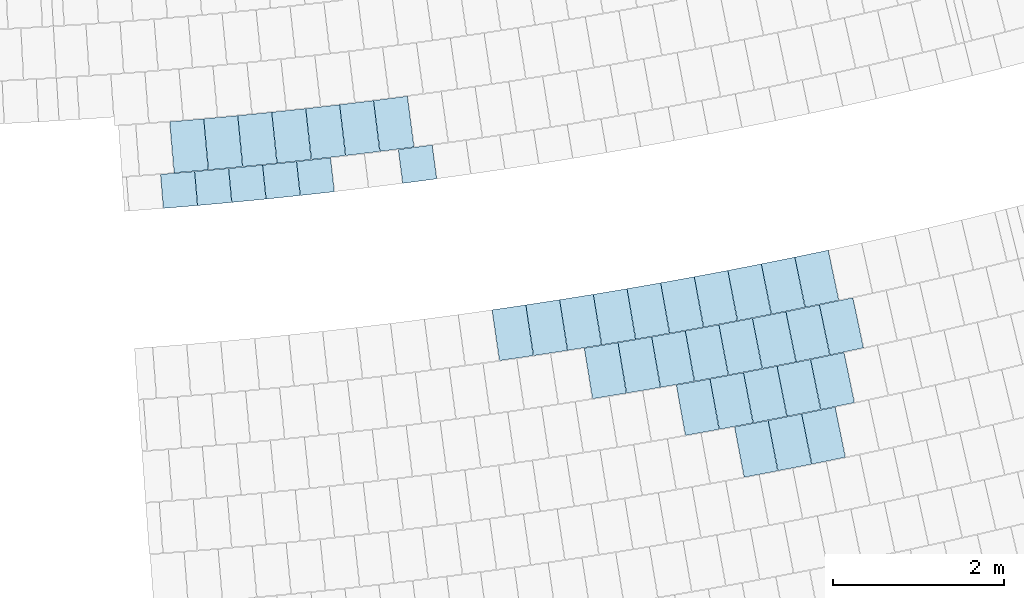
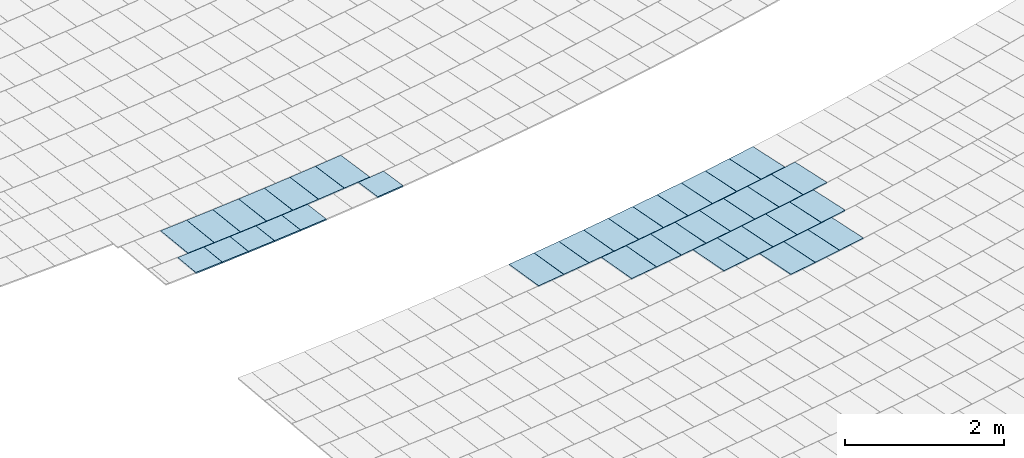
# One storey, part 56 of 438: 39 slabs.
"""IFC2X3 building model written with IfcOpenShell, lengths in millimetres."""

from ifc_helpers import new_model, entity, si_unit, converted_unit, derived_unit, direction, frame, frame_2d, origin, place, context, subcontext, project, spatial, polyline, rectangle, outline, extrude, material, layer, layer_set, layer_usage, type_object, element, save


model = new_model("IFC2X3")

# Units and contexts
model_context = context("Model", 3, precision=0.01, world=origin(), true_north=direction((6.123031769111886e-17, 1.0)))
body_context = subcontext(model_context, "Body", "Model", "MODEL_VIEW")
ifc_project = project(units=[si_unit("LENGTHUNIT", "METRE", prefix="MILLI"), si_unit("AREAUNIT", "SQUARE_METRE"), si_unit("VOLUMEUNIT", "CUBIC_METRE"), converted_unit("PLANEANGLEUNIT", "DEGREE", entity("IfcRatioMeasure", 0.017453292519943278), si_unit("PLANEANGLEUNIT", "RADIAN"), dimensions=[0, 0, 0, 0, 0, 0, 0]), si_unit("MASSUNIT", "GRAM", prefix="KILO"), derived_unit("MASSDENSITYUNIT", [(si_unit("MASSUNIT", "GRAM", prefix="KILO"), 1), (si_unit("LENGTHUNIT", "METRE"), -3)]), derived_unit("MOMENTOFINERTIAUNIT", [(si_unit("LENGTHUNIT", "METRE"), 4)]), si_unit("TIMEUNIT", "SECOND"), si_unit("FREQUENCYUNIT", "HERTZ"), si_unit("THERMODYNAMICTEMPERATUREUNIT", "DEGREE_CELSIUS"), derived_unit("THERMALTRANSMITTANCEUNIT", [(si_unit("MASSUNIT", "GRAM", prefix="KILO"), 1), (si_unit("THERMODYNAMICTEMPERATUREUNIT", "KELVIN"), -1), (si_unit("TIMEUNIT", "SECOND"), -3)]), derived_unit("THERMALCONDUCTANCEUNIT", [(si_unit("MASSUNIT", "GRAM", prefix="KILO"), 1), (si_unit("LENGTHUNIT", "METRE"), 1), (si_unit("THERMODYNAMICTEMPERATUREUNIT", "KELVIN"), -1), (si_unit("TIMEUNIT", "SECOND"), -3)]), derived_unit("VOLUMETRICFLOWRATEUNIT", [(si_unit("LENGTHUNIT", "METRE"), 3), (si_unit("TIMEUNIT", "SECOND"), -1)]), derived_unit("MASSFLOWRATEUNIT", [(si_unit("MASSUNIT", "GRAM", prefix="KILO"), 1), (si_unit("TIMEUNIT", "SECOND"), -1)]), derived_unit("ROTATIONALFREQUENCYUNIT", [(si_unit("TIMEUNIT", "SECOND"), -1)]), si_unit("ELECTRICCURRENTUNIT", "AMPERE"), si_unit("ELECTRICVOLTAGEUNIT", "VOLT"), si_unit("POWERUNIT", "WATT"), converted_unit("FORCEUNIT", "KIP", entity("IfcRatioMeasure", 2.088543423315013e-05), si_unit("FORCEUNIT", "NEWTON"), dimensions=[1, 1, -2, 0, 0, 0, 0]), si_unit("ILLUMINANCEUNIT", "LUX"), si_unit("LUMINOUSFLUXUNIT", "LUMEN"), si_unit("LUMINOUSINTENSITYUNIT", "CANDELA"), derived_unit("USERDEFINED", [(si_unit("MASSUNIT", "GRAM", prefix="KILO"), -1), (si_unit("LENGTHUNIT", "METRE"), -2), (si_unit("TIMEUNIT", "SECOND"), 3), (si_unit("LUMINOUSFLUXUNIT", "LUMEN"), 1)]), derived_unit("USERDEFINED", [(si_unit("MASSUNIT", "GRAM", prefix="KILO"), 1), (si_unit("LENGTHUNIT", "METRE"), 3), (si_unit("TIMEUNIT", "SECOND"), -3), (si_unit("ELECTRICCURRENTUNIT", "AMPERE"), -2)]), derived_unit("USERDEFINED", [(si_unit("LENGTHUNIT", "METRE"), 2), (si_unit("TIMEUNIT", "SECOND"), -2)]), derived_unit("SOUNDPOWERUNIT", [(si_unit("MASSUNIT", "GRAM", prefix="KILO"), 1), (si_unit("LENGTHUNIT", "METRE"), 2), (si_unit("TIMEUNIT", "SECOND"), -3)]), derived_unit("SOUNDPRESSUREUNIT", [(si_unit("MASSUNIT", "GRAM", prefix="KILO"), 1), (si_unit("LENGTHUNIT", "METRE"), -1), (si_unit("TIMEUNIT", "SECOND"), -2)]), derived_unit("LINEARVELOCITYUNIT", [(si_unit("LENGTHUNIT", "METRE"), 1), (si_unit("TIMEUNIT", "SECOND"), -1)]), si_unit("PRESSUREUNIT", "PASCAL"), derived_unit("USERDEFINED", [(si_unit("LENGTHUNIT", "METRE"), -2), (si_unit("MASSUNIT", "GRAM", prefix="KILO"), 1), (si_unit("TIMEUNIT", "SECOND"), -2)]), derived_unit("LINEARFORCEUNIT", [(si_unit("MASSUNIT", "GRAM", prefix="KILO"), 1), (si_unit("LENGTHUNIT", "METRE"), 1), (si_unit("TIMEUNIT", "SECOND"), -2), (si_unit("LENGTHUNIT", "METRE"), -1)]), derived_unit("PLANARFORCEUNIT", [(si_unit("MASSUNIT", "GRAM", prefix="KILO"), 1), (si_unit("LENGTHUNIT", "METRE"), 1), (si_unit("TIMEUNIT", "SECOND"), -2), (si_unit("LENGTHUNIT", "METRE"), -2)]), derived_unit("SPECIFICHEATCAPACITYUNIT", [(si_unit("LENGTHUNIT", "METRE"), 2), (si_unit("TIMEUNIT", "SECOND"), -2), (si_unit("THERMODYNAMICTEMPERATUREUNIT", "KELVIN"), -1)]), derived_unit("VAPORPERMEABILITYUNIT", [(si_unit("TIMEUNIT", "SECOND"), 1), (si_unit("LENGTHUNIT", "METRE"), -1)]), derived_unit("DYNAMICVISCOSITYUNIT", [(si_unit("MASSUNIT", "GRAM", prefix="KILO"), 1), (si_unit("LENGTHUNIT", "METRE"), -1), (si_unit("TIMEUNIT", "SECOND"), -1)]), derived_unit("THERMALEXPANSIONCOEFFICIENTUNIT", [(si_unit("THERMODYNAMICTEMPERATUREUNIT", "KELVIN"), -1)])], contexts=[model_context])

# Site, building, storey
site_placement = place(None, frame((0.0, 0.0, 0.0), z_axis=(0.0, 0.0, 1.0), x_axis=(0.8191520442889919, 0.5735764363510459, 0.0)))
site = spatial("IfcSite", under=ifc_project, at=site_placement, Name="Default", CompositionType="ELEMENT")
building_placement = place(site_placement, origin())
building = spatial("IfcBuilding", under=site, at=building_placement, CompositionType="ELEMENT")
storey_placement = place(building_placement, origin())
storey = spatial("IfcBuildingStorey", under=building, at=storey_placement, Name="PLAN", CompositionType="ELEMENT", Elevation=0.0)

# Slabs
ifc_material = material(Name="Paint-01")
ifc_layer = layer(ifc_material, 20.00000000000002)
ifc_layer_set = layer_set([ifc_layer], Name="Floor:Slab-179:1000")
ifc_layer_usage = layer_usage(ifc_layer_set, "AXIS3", "POSITIVE", 0.0)
slab_type = type_object("IfcSlabType", Name="Floor:Slab-179:1000", PredefinedType="FLOOR", material=ifc_layer_set)
slab_1_placement = place(storey_placement, origin())
element("IfcSlab", 1, at=slab_1_placement, inside=storey, type_object=slab_type, material=ifc_layer_usage, Name="Floor:Slab-179:1000", ObjectType="Floor:Slab-179:1000", PredefinedType="FLOOR", context=body_context, shape_type="SweptSolid", body=[
    extrude(outline(polyline([(-300.0000010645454, -200.00000294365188), (299.9999989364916, -200.00000294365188), (300.00000106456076, 200.00000294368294), (-299.9999989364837, 200.00000294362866), (-300.0000010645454, -200.00000294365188)])), frame((-66964.62865862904, -121936.65293283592, 20.0), z_axis=(0.0, 0.0, -1.0), x_axis=(-0.4425299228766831, -0.8967537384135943, 0.0)), (0.0, 0.0, 1.0), 20.000000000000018),
])
slab_2_placement = place(storey_placement, origin())
element("IfcSlab", 2, at=slab_2_placement, inside=storey, type_object=slab_type, material=ifc_layer_usage, Name="Floor:Slab-179:1000", ObjectType="Floor:Slab-179:1000", PredefinedType="FLOOR", context=body_context, shape_type="SweptSolid", body=[
    extrude(outline(polyline([(-299.99999893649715, -200.00000294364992), (300.0000010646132, -200.00000294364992), (299.9999989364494, 200.0000029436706), (-300.00000106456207, 200.00000294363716), (-299.99999893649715, -200.00000294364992)])), frame((-65033.14153726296, -124832.08716790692, 20.0), z_axis=(0.0, 0.0, -1.0), x_axis=(-0.39843642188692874, -0.9171959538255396, 0.0)), (0.0, 0.0, 1.0), 20.00000000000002),
])
slab_3_placement = place(storey_placement, origin())
element("IfcSlab", 3, at=slab_3_placement, inside=storey, type_object=slab_type, material=ifc_layer_usage, Name="Floor:Slab-179:1000", ObjectType="Floor:Slab-179:1000", PredefinedType="FLOOR", context=body_context, shape_type="SweptSolid", body=[
    extrude(outline(polyline([(-299.99999893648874, -200.00000294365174), (300.00000106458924, -200.00000294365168), (299.99999893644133, 200.00000294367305), (-300.000001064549, 200.0000029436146), (-299.99999893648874, -200.00000294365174)])), frame((-65768.36585494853, -124507.02037914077, 20.0), z_axis=(0.0, 0.0, -1.0), x_axis=(-0.4102910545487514, -0.9119546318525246, 0.0)), (0.0, 0.0, 1.0), 20.00000000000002),
])
slab_4_placement = place(storey_placement, origin())
element("IfcSlab", 4, at=slab_4_placement, inside=storey, type_object=slab_type, material=ifc_layer_usage, Name="Floor:Slab-179:1000", ObjectType="Floor:Slab-179:1000", PredefinedType="FLOOR", context=body_context, shape_type="SweptSolid", body=[
    extrude(outline(polyline([(-299.99999893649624, -200.0000029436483), (300.0000010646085, -200.0000029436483), (299.99999893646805, 200.0000029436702), (-300.0000010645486, 200.00000294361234), (-299.99999893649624, -200.0000029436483)])), frame((-65401.28037593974, -124670.74499894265, 20.0), z_axis=(0.0, 0.0, -1.0), x_axis=(-0.40437223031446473, -0.9145944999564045, 0.0)), (0.0, 0.0, 1.0), 20.00000000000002),
])
slab_5_placement = place(storey_placement, origin())
element("IfcSlab", 5, at=slab_5_placement, inside=storey, type_object=slab_type, material=ifc_layer_usage, Name="Floor:Slab-179:1000", ObjectType="Floor:Slab-179:1000", PredefinedType="FLOOR", context=body_context, shape_type="SweptSolid", body=[
    extrude(outline(polyline([(-299.99999893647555, -200.0000029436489), (300.000001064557, -200.00000294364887), (299.9999989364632, 200.00000294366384), (-300.0000010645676, 200.00000294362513), (-299.99999893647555, -200.0000029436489)])), frame((-65316.92627659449, -124046.27160802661, 20.0), z_axis=(0.0, 0.0, -1.0), x_axis=(-0.4069821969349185, -0.9134360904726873, 0.0)), (0.0, 0.0, 1.0), 20.00000000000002),
])
slab_6_placement = place(storey_placement, origin())
element("IfcSlab", 6, at=slab_6_placement, inside=storey, type_object=slab_type, material=ifc_layer_usage, Name="Floor:Slab-179:1000", ObjectType="Floor:Slab-179:1000", PredefinedType="FLOOR", context=body_context, shape_type="SweptSolid", body=[
    extrude(outline(polyline([(-299.9999989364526, -200.00000294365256), (300.0000010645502, -200.0000029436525), (299.99999893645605, 200.00000294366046), (-300.0000010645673, 200.0000029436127), (-299.9999989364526, -200.00000294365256)])), frame((-64580.472515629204, -124368.63893316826, 20.0), z_axis=(0.0, 0.0, -1.0), x_axis=(-0.39499076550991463, -0.9186850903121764, 0.0)), (0.0, 0.0, 1.0), 20.00000000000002),
])
slab_7_placement = place(storey_placement, origin())
element("IfcSlab", 7, at=slab_7_placement, inside=storey, type_object=slab_type, material=ifc_layer_usage, Name="Floor:Slab-179:1000", ObjectType="Floor:Slab-179:1000", PredefinedType="FLOOR", context=body_context, shape_type="SweptSolid", body=[
    extrude(outline(polyline([(-299.9999989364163, -200.0000029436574), (300.00000106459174, -200.00000294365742), (299.9999989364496, 200.00000294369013), (-300.00000106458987, 200.0000029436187), (-299.9999989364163, -200.0000029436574)])), frame((-64949.226872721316, -124208.66030008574, 20.0), z_axis=(0.0, 0.0, -1.0), x_axis=(-0.4009950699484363, -0.9160802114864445, 0.0)), (0.0, 0.0, 1.0), 20.000000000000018),
])
slab_8_placement = place(storey_placement, origin())
element("IfcSlab", 8, at=slab_8_placement, inside=storey, type_object=slab_type, material=ifc_layer_usage, Name="Floor:Slab-179:1000", ObjectType="Floor:Slab-179:1000", PredefinedType="FLOOR", context=body_context, shape_type="SweptSolid", body=[
    extrude(outline(polyline([(-299.99999893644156, -200.00000294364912), (300.00000106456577, -200.00000294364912), (299.9999989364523, 200.0000029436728), (-300.0000010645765, 200.00000294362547), (-299.99999893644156, -200.00000294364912)])), frame((-65683.55497608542, -123881.47981324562, 20.0), z_axis=(0.0, 0.0, -1.0), x_axis=(-0.41295188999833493, -0.9107528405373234, 0.0)), (0.0, 0.0, 1.0), 20.000000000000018),
])
slab_9_placement = place(storey_placement, origin())
element("IfcSlab", 9, at=slab_9_placement, inside=storey, type_object=slab_type, material=ifc_layer_usage, Name="Floor:Slab-179:1000", ObjectType="Floor:Slab-179:1000", PredefinedType="FLOOR", context=body_context, shape_type="SweptSolid", body=[
    extrude(outline(polyline([(-299.9999989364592, -200.00000294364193), (300.0000010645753, -200.00000294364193), (299.9999989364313, 200.0000029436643), (-300.0000010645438, 200.0000029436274), (-299.9999989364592, -200.00000294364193)])), frame((-66049.09726589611, -123714.29197494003, 20.0), z_axis=(0.0, 0.0, -1.0), x_axis=(-0.41890389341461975, -0.9080305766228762, 0.0)), (0.0, 0.0, 1.0), 20.000000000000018),
])
slab_10_placement = place(storey_placement, origin())
element("IfcSlab", 10, at=slab_10_placement, inside=storey, type_object=slab_type, material=ifc_layer_usage, Name="Floor:Slab-179:1000", ObjectType="Floor:Slab-179:1000", PredefinedType="FLOOR", context=body_context, shape_type="SweptSolid", body=[
    extrude(outline(polyline([(-299.99999893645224, -200.0000029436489), (300.0000010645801, -200.00000294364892), (299.9999989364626, 200.0000029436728), (-300.0000010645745, 200.0000029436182), (-299.99999893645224, -200.0000029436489)])), frame((-64496.81120243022, -123745.80328261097, 20.0), z_axis=(0.0, 0.0, -1.0), x_axis=(-0.39754475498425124, -0.9175827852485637, 0.0)), (0.0, 0.0, 1.0), 20.00000000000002),
])
slab_11_placement = place(storey_placement, origin())
element("IfcSlab", 11, at=slab_11_placement, inside=storey, type_object=slab_type, material=ifc_layer_usage, Name="Floor:Slab-179:1000", ObjectType="Floor:Slab-179:1000", PredefinedType="FLOOR", context=body_context, shape_type="SweptSolid", body=[
    extrude(outline(polyline([(-299.9999989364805, -200.00000294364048), (300.00000106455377, -200.0000029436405), (299.99999893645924, 200.00000294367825), (-300.0000010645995, 200.00000294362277), (-299.9999989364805, -200.00000294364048)])), frame((-64865.13179837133, -123584.7796025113, 20.0), z_axis=(0.0, 0.0, -1.0), x_axis=(-0.40360166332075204, -0.9149348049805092, 0.0)), (0.0, 0.0, 1.0), 20.00000000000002),
])
slab_12_placement = place(storey_placement, origin())
element("IfcSlab", 12, at=slab_12_placement, inside=storey, type_object=slab_type, material=ifc_layer_usage, Name="Floor:Slab-179:1000", ObjectType="Floor:Slab-179:1000", PredefinedType="FLOOR", context=body_context, shape_type="SweptSolid", body=[
    extrude(outline(polyline([(-299.99999893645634, -200.0000029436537), (300.0000010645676, -200.00000294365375), (299.9999989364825, 200.00000294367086), (-300.00000106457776, 200.00000294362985), (-299.99999893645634, -200.0000029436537)])), frame((-64127.43422209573, -123904.38869602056, 20.0), z_axis=(0.0, 0.0, -1.0), x_axis=(-0.39147047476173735, -0.9201906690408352, 0.0)), (0.0, 0.0, 1.0), 20.00000000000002),
])
slab_13_placement = place(storey_placement, origin())
element("IfcSlab", 13, at=slab_13_placement, inside=storey, type_object=slab_type, material=ifc_layer_usage, Name="Floor:Slab-179:1000", ObjectType="Floor:Slab-179:1000", PredefinedType="FLOOR", context=body_context, shape_type="SweptSolid", body=[
    extrude(outline(polyline([(-299.9999989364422, -200.000002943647), (300.0000010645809, -200.00000294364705), (299.9999989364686, 200.00000294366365), (-300.0000010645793, 200.0000029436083), (-299.9999989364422, -200.000002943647)])), frame((-65232.37991506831, -123421.32469212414, 20.0), z_axis=(0.0, 0.0, -1.0), x_axis=(-0.4096409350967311, -0.912246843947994, 0.0)), (0.0, 0.0, 1.0), 20.00000000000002),
])
slab_14_placement = place(storey_placement, origin())
element("IfcSlab", 14, at=slab_14_placement, inside=storey, type_object=slab_type, material=ifc_layer_usage, Name="Floor:Slab-179:1000", ObjectType="Floor:Slab-179:1000", PredefinedType="FLOOR", context=body_context, shape_type="SweptSolid", body=[
    extrude(outline(polyline([(-299.9999989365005, -200.0000029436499), (300.0000010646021, -200.00000294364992), (299.99999893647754, 200.00000294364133), (-300.00000106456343, 200.00000294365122), (-299.9999989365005, -200.0000029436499)])), frame((-65598.539504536, -123255.44569409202, 20.0), z_axis=(0.0, 0.0, -1.0), x_axis=(-0.4156623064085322, -0.9095190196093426, 0.0)), (0.0, 0.0, 1.0), 20.000000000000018),
])
slab_15_placement = place(storey_placement, origin())
element("IfcSlab", 15, at=slab_15_placement, inside=storey, type_object=slab_type, material=ifc_layer_usage, Name="Floor:Slab-179:1000", ObjectType="Floor:Slab-179:1000", PredefinedType="FLOOR", context=body_context, shape_type="SweptSolid", body=[
    extrude(outline(polyline([(-299.9999989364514, -200.00000294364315), (300.00000106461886, -200.00000294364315), (299.9999989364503, 200.00000294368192), (-300.00000106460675, 200.00000294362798), (-299.9999989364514, -200.00000294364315)])), frame((-65963.5945663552, -123087.14985698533, 20.0), z_axis=(0.0, 0.0, -1.0), x_axis=(-0.421665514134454, -0.9067514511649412, 0.0)), (0.0, 0.0, 1.0), 20.00000000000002),
])
slab_16_placement = place(storey_placement, origin())
element("IfcSlab", 16, at=slab_16_placement, inside=storey, type_object=slab_type, material=ifc_layer_usage, Name="Floor:Slab-179:1000", ObjectType="Floor:Slab-179:1000", PredefinedType="FLOOR", context=body_context, shape_type="SweptSolid", body=[
    extrude(outline(polyline([(-299.99999893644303, -200.0000029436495), (300.0000010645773, -200.00000294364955), (299.99999893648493, 200.00000294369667), (-300.00000106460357, 200.0000029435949), (-299.99999893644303, -200.0000029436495)])), frame((-66690.32734739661, -122743.33718756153, 20.0), z_axis=(0.0, 0.0, -1.0), x_axis=(-0.4336163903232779, -0.901097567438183, 0.0)), (0.0, 0.0, 1.0), 20.00000000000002),
])
slab_17_placement = place(storey_placement, origin())
element("IfcSlab", 17, at=slab_17_placement, inside=storey, type_object=slab_type, material=ifc_layer_usage, Name="Floor:Slab-179:1000", ObjectType="Floor:Slab-179:1000", PredefinedType="FLOOR", context=body_context, shape_type="SweptSolid", body=[
    extrude(outline(polyline([(-299.9999989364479, -200.0000029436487), (300.000001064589, -200.00000294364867), (299.99999893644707, 200.0000029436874), (-300.00000106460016, 200.00000294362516), (-299.9999989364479, -200.0000029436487)])), frame((-66327.5291483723, -122916.44453498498, 20.0), z_axis=(0.0, 0.0, -1.0), x_axis=(-0.4276502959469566, -0.9039442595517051, 0.0)), (0.0, 0.0, 1.0), 20.00000000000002),
])
slab_18_placement = place(storey_placement, origin())
element("IfcSlab", 18, at=slab_18_placement, inside=storey, type_object=slab_type, material=ifc_layer_usage, Name="Floor:Slab-179:1000", ObjectType="Floor:Slab-179:1000", PredefinedType="FLOOR", context=body_context, shape_type="SweptSolid", body=[
    extrude(outline(polyline([(-299.9999989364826, -200.00000294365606), (300.0000010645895, -200.00000294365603), (299.9999989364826, 200.00000294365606), (-300.000001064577, 200.00000294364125), (-299.9999989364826, -200.00000294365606)])), frame((-64044.02537343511, -123282.14910865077, 20.0), z_axis=(0.0, 0.0, -1.0), x_axis=(-0.39401894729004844, -0.9191023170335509, 0.0)), (0.0, 0.0, 1.0), 20.00000000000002),
])
slab_19_placement = place(storey_placement, origin())
element("IfcSlab", 19, at=slab_19_placement, inside=storey, type_object=slab_type, material=ifc_layer_usage, Name="Floor:Slab-179:1000", ObjectType="Floor:Slab-179:1000", PredefinedType="FLOOR", context=body_context, shape_type="SweptSolid", body=[
    extrude(outline(polyline([(-299.99999893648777, -200.00000294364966), (300.00000106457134, -200.00000294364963), (299.9999989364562, 200.00000294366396), (-300.0000010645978, 200.00000294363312), (-299.99999893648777, -200.00000294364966)])), frame((-65147.63403498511, -122795.8904603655, 20.0), z_axis=(0.0, 0.0, -1.0), x_axis=(-0.4123497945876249, -0.9110256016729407, 0.0)), (0.0, 0.0, 1.0), 20.00000000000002),
])
slab_20_placement = place(storey_placement, origin())
element("IfcSlab", 20, at=slab_20_placement, inside=storey, type_object=slab_type, material=ifc_layer_usage, Name="Floor:Slab-179:1000", ObjectType="Floor:Slab-179:1000", PredefinedType="FLOOR", context=body_context, shape_type="SweptSolid", body=[
    extrude(outline(polyline([(-299.99999893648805, -200.00000294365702), (300.00000106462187, -200.000002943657), (299.99999893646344, 200.00000294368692), (-300.00000106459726, 200.00000294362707), (-299.99999893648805, -200.00000294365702)])), frame((-64780.84950718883, -122960.43183408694, 20.0), z_axis=(0.0, 0.0, -1.0), x_axis=(-0.4062575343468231, -0.913758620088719, 0.0)), (0.0, 0.0, 1.0), 20.00000000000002),
])
slab_21_placement = place(storey_placement, origin())
element("IfcSlab", 21, at=slab_21_placement, inside=storey, type_object=slab_type, material=ifc_layer_usage, Name="Floor:Slab-179:1000", ObjectType="Floor:Slab-179:1000", PredefinedType="FLOOR", context=body_context, shape_type="SweptSolid", body=[
    extrude(outline(polyline([(-299.9999989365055, -200.00000294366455), (300.0000010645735, -200.00000294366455), (299.999998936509, 200.00000294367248), (-300.00000106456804, 200.0000029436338), (-299.9999989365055, -200.00000294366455)])), frame((-64412.97448610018, -123122.52045909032, 20.0), z_axis=(0.0, 0.0, -1.0), x_axis=(-0.4001471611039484, -0.9164508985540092, 0.0)), (0.0, 0.0, 1.0), 20.00000000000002),
])
slab_22_placement = place(storey_placement, origin())
element("IfcSlab", 22, at=slab_22_placement, inside=storey, type_object=slab_type, material=ifc_layer_usage, Name="Floor:Slab-179:1000", ObjectType="Floor:Slab-179:1000", PredefinedType="FLOOR", context=body_context, shape_type="SweptSolid", body=[
    extrude(outline(polyline([(-299.9999989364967, -200.0000029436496), (300.00000106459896, -200.0000029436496), (299.9999989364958, 200.00000294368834), (-300.000001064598, 200.00000294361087), (-299.9999989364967, -200.0000029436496)])), frame((-65877.86624765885, -122459.47892012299, 20.0), z_axis=(0.0, 0.0, -1.0), x_axis=(-0.42447889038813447, -0.9054378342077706, 0.0)), (0.0, 0.0, 1.0), 20.00000000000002),
])
slab_23_placement = place(storey_placement, origin())
element("IfcSlab", 23, at=slab_23_placement, inside=storey, type_object=slab_type, material=ifc_layer_usage, Name="Floor:Slab-179:1000", ObjectType="Floor:Slab-179:1000", PredefinedType="FLOOR", context=body_context, shape_type="SweptSolid", body=[
    extrude(outline(polyline([(-299.99999893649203, -200.00000294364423), (300.0000010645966, -200.00000294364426), (299.99999893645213, 200.00000294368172), (-300.00000106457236, 200.00000294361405), (-299.99999893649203, -200.00000294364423)])), frame((-65513.31171639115, -122628.90367400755, 20.0), z_axis=(0.0, 0.0, -1.0), x_axis=(-0.41842367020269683, -0.9082519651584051, 0.0)), (0.0, 0.0, 1.0), 20.00000000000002),
])
slab_24_placement = place(storey_placement, origin())
element("IfcSlab", 24, at=slab_24_placement, inside=storey, type_object=slab_type, material=ifc_layer_usage, Name="Floor:Slab-179:1000", ObjectType="Floor:Slab-179:1000", PredefinedType="FLOOR", context=body_context, shape_type="SweptSolid", body=[
    extrude(outline(polyline([(-299.9999989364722, -200.00000294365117), (300.0000010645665, -200.00000294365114), (299.99999893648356, 200.00000294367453), (-300.0000010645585, 200.00000294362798), (-299.9999989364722, -200.00000294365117)])), frame((-66603.54089588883, -122113.34583336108, 20.0), z_axis=(0.0, 0.0, -1.0), x_axis=(-0.4365322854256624, -0.8996885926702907, 0.0)), (0.0, 0.0, 1.0), 20.000000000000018),
])
slab_25_placement = place(storey_placement, origin())
element("IfcSlab", 25, at=slab_25_placement, inside=storey, type_object=slab_type, material=ifc_layer_usage, Name="Floor:Slab-179:1000", ObjectType="Floor:Slab-179:1000", PredefinedType="FLOOR", context=body_context, shape_type="SweptSolid", body=[
    extrude(outline(polyline([(-299.99999893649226, -200.00000294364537), (300.0000010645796, -200.0000029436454), (299.99999893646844, 200.00000294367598), (-300.00000106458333, 200.00000294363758), (-299.99999893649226, -200.00000294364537)])), frame((-66241.28137511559, -122287.62375251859, 20.0), z_axis=(0.0, 0.0, -1.0), x_axis=(-0.43051518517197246, -0.9025833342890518, 0.0)), (0.0, 0.0, 1.0), 20.00000000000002),
])
slab_26_placement = place(storey_placement, origin())
element("IfcSlab", 26, at=slab_26_placement, inside=storey, type_object=slab_type, material=ifc_layer_usage, Name="Floor:Slab-179:1000", ObjectType="Floor:Slab-179:1000", PredefinedType="FLOOR", context=body_context, shape_type="SweptSolid", body=[
    extrude(outline(polyline([(-300.00000106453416, -200.000002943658), (299.99999893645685, -200.00000294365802), (300.0000010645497, 200.00000294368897), (-299.99999893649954, 200.0000029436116), (-300.00000106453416, -200.000002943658)])), frame((-67324.52856422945, -121757.55292880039, 20.0), z_axis=(0.0, 0.0, -1.0), x_axis=(-0.4485078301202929, -0.8937789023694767, 0.0)), (0.0, 0.0, 1.0), 20.00000000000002),
])
slab_27_placement = place(storey_placement, origin())
element("IfcSlab", 27, at=slab_27_placement, inside=storey, type_object=slab_type, material=ifc_layer_usage, Name="Floor:Slab-179:1000", ObjectType="Floor:Slab-179:1000", PredefinedType="FLOOR", context=body_context, shape_type="SweptSolid", body=[
    extrude(outline(polyline([(-300.0, -200.00000294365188), (299.99999762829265, -200.00000294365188), (300.0, 200.00000294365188), (-299.99999762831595, 200.00000294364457), (-300.0, -200.00000294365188)])), frame((-67061.70254878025, -118953.50101418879, 520.0), z_axis=(0.0, 0.0, -1.0), x_axis=(-0.4643095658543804, -0.8856729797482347, 0.0)), (0.0, 0.0, 1.0), 20.000000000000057),
])
slab_28_placement = place(storey_placement, origin())
element("IfcSlab", 28, at=slab_28_placement, inside=storey, type_object=slab_type, material=ifc_layer_usage, Name="Floor:Slab-179:1000", ObjectType="Floor:Slab-179:1000", PredefinedType="FLOOR", context=body_context, shape_type="SweptSolid", body=[
    extrude(outline(polyline([(-300.0, -200.00000294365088), (299.99999762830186, -200.00000294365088), (300.0, 200.00000294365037), (-299.9999976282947, 200.00000294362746), (-300.0, -200.00000294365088)])), frame((-67417.17079100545, -118765.56369588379, 520.0), z_axis=(0.0, 0.0, -1.0), x_axis=(-0.47048196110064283, -0.8824096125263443, 0.0)), (0.0, 0.0, 1.0), 20.000000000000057),
])
slab_29_placement = place(storey_placement, origin())
element("IfcSlab", 29, at=slab_29_placement, inside=storey, type_object=slab_type, material=ifc_layer_usage, Name="Floor:Slab-179:1000", ObjectType="Floor:Slab-179:1000", PredefinedType="FLOOR", context=body_context, shape_type="SweptSolid", body=[
    extrude(outline(polyline([(-300.0, -200.00000294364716), (299.99999762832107, -200.0000029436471), (300.0, 200.00000294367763), (-299.9999976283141, 200.00000294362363), (-300.0, -200.00000294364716)])), frame((-67771.3182026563, -118575.14910173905, 520.0), z_axis=(0.0, 0.0, -1.0), x_axis=(-0.47663142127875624, -0.8791032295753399, 0.0)), (0.0, 0.0, 1.0), 19.99999999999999),
])
slab_30_placement = place(storey_placement, origin())
element("IfcSlab", 30, at=slab_30_placement, inside=storey, type_object=slab_type, material=ifc_layer_usage, Name="Floor:Slab-179:1000", ObjectType="Floor:Slab-179:1000", PredefinedType="FLOOR", context=body_context, shape_type="SweptSolid", body=[
    extrude(outline(polyline([(-300.0, -200.00000294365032), (299.9999976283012, -200.00000294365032), (300.0, 200.0000029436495), (-299.9999976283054, 200.00000294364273), (-300.0, -200.00000294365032)])), frame((-68124.12751974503, -118382.2665140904, 520.0), z_axis=(0.0, 0.0, -1.0), x_axis=(-0.48275764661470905, -0.8757539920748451, 0.0)), (0.0, 0.0, 1.0), 20.000000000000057),
])
slab_31_placement = place(storey_placement, origin())
element("IfcSlab", 31, at=slab_31_placement, inside=storey, type_object=slab_type, material=ifc_layer_usage, Name="Floor:Slab-179:1000", ObjectType="Floor:Slab-179:1000", PredefinedType="FLOOR", context=body_context, shape_type="SweptSolid", body=[
    extrude(outline(polyline([(-300.0, -200.00000294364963), (299.99999762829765, -200.0000029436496), (300.0, 200.00000294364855), (-299.99999762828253, 200.00000294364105), (-300.0, -200.00000294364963)])), frame((-68825.66314126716, -117989.13508871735, 520.0), z_axis=(0.0, 0.0, -1.0), x_axis=(-0.4949391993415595, -0.8689276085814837, 0.0)), (0.0, 0.0, 1.0), 20.000000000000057),
])
slab_32_placement = place(storey_placement, origin())
element("IfcSlab", 32, at=slab_32_placement, inside=storey, type_object=slab_type, material=ifc_layer_usage, Name="Floor:Slab-179:1000", ObjectType="Floor:Slab-179:1000", PredefinedType="FLOOR", context=body_context, shape_type="SweptSolid", body=[
    extrude(rectangle(XDim=599.9996019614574, YDim=399.9997422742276, at=frame_2d((-3.154809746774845e-12, 1.1823431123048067e-11), x_axis=(1.0, 0.0))), frame((-69174.17177550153, -117789.27647824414, 520.0), z_axis=(0.0, 0.0, -1.0), x_axis=(-0.4999999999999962, -0.8660254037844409, 0.0)), (0.0, 0.0, 1.0), 19.99999999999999),
])
slab_33_placement = place(storey_placement, origin())
element("IfcSlab", 33, at=slab_33_placement, inside=storey, type_object=slab_type, material=ifc_layer_usage, Name="Floor:Slab-179:1000", ObjectType="Floor:Slab-179:1000", PredefinedType="FLOOR", context=body_context, shape_type="SweptSolid", body=[
    extrude(outline(polyline([(-300.0, -200.0000029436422), (299.9999976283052, -200.00000294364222), (300.0, 200.00000294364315), (-299.9999976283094, 200.00000294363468), (-300.0, -200.0000029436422)])), frame((-68475.58154351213, -118186.92533558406, 520.0), z_axis=(0.0, 0.0, -1.0), x_axis=(-0.4888603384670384, -0.8723620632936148, 0.0)), (0.0, 0.0, 1.0), 19.99999999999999),
])
slab_34_placement = place(storey_placement, origin())
element("IfcSlab", 34, at=slab_34_placement, inside=storey, type_object=slab_type, material=ifc_layer_usage, Name="Floor:Slab-179:1000", ObjectType="Floor:Slab-179:1000", PredefinedType="FLOOR", context=body_context, shape_type="SweptSolid", body=[
    extrude(outline(polyline([(-200.0, -200.00000294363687), (199.99999762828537, -200.00000294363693), (200.0, 200.00000294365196), (-199.99999762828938, 200.0000029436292), (-200.0, -200.00000294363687)])), frame((-67105.10863841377, -119500.48208082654, 520.0), z_axis=(0.0, 0.0, -1.0), x_axis=(-0.46102063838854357, -0.887389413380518, 0.0)), (0.0, 0.0, 1.0), 19.999999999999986),
])
slab_35_placement = place(storey_placement, origin())
element("IfcSlab", 35, at=slab_35_placement, inside=storey, type_object=slab_type, material=ifc_layer_usage, Name="Floor:Slab-179:1000", ObjectType="Floor:Slab-179:1000", PredefinedType="FLOOR", context=body_context, shape_type="SweptSolid", body=[
    extrude(outline(polyline([(-200.0, -200.00000294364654), (199.9999976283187, -200.00000294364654), (200.0, 200.0000029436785), (-199.99999762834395, 200.00000294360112), (-200.0, -200.00000294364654)])), frame((-68519.42234483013, -118740.7123828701, 520.0), z_axis=(0.0, 0.0, -1.0), x_axis=(-0.4853654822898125, -0.8743113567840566, 0.0)), (0.0, 0.0, 1.0), 20.000000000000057),
])
slab_36_placement = place(storey_placement, origin())
element("IfcSlab", 36, at=slab_36_placement, inside=storey, type_object=slab_type, material=ifc_layer_usage, Name="Floor:Slab-179:1000", ObjectType="Floor:Slab-179:1000", PredefinedType="FLOOR", context=body_context, shape_type="SweptSolid", body=[
    extrude(outline(polyline([(-200.0, -200.00000294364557), (199.99999762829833, -200.00000294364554), (200.0, 200.0000029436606), (-199.9999976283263, 200.00000294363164), (-200.0, -200.00000294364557)])), frame((-69218.57064241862, -118346.24345894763, 520.0), z_axis=(0.0, 0.0, -1.0), x_axis=(-0.49740005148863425, -0.8675212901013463, 0.0)), (0.0, 0.0, 1.0), 20.000000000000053),
])
slab_37_placement = place(storey_placement, origin())
element("IfcSlab", 37, at=slab_37_placement, inside=storey, type_object=slab_type, material=ifc_layer_usage, Name="Floor:Slab-179:1000", ObjectType="Floor:Slab-179:1000", PredefinedType="FLOOR", context=body_context, shape_type="SweptSolid", body=[
    extrude(outline(polyline([(-200.0, -200.0000029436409), (199.99999762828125, -200.0000029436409), (200.0, 200.0000029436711), (-199.99999762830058, 200.0000029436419), (-200.0, -200.0000029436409)])), frame((-68869.67784595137, -118544.68553522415, 520.0), z_axis=(0.0, 0.0, -1.0), x_axis=(-0.4913944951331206, -0.870937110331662, 0.0)), (0.0, 0.0, 1.0), 20.000000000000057),
])
slab_38_placement = place(storey_placement, origin())
element("IfcSlab", 38, at=slab_38_placement, inside=storey, type_object=slab_type, material=ifc_layer_usage, Name="Floor:Slab-179:1000", ObjectType="Floor:Slab-179:1000", PredefinedType="FLOOR", context=body_context, shape_type="SweptSolid", body=[
    extrude(outline(polyline([(-200.0, -200.0000029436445), (199.99999762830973, -200.0000029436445), (200.0, 200.00000294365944), (-199.99999762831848, 200.00000294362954), (-200.0, -200.0000029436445)])), frame((-69566.08407999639, -118145.39562658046, 520.0), z_axis=(0.0, 0.0, -1.0), x_axis=(-0.503381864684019, -0.86406405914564, 0.0)), (0.0, 0.0, 1.0), 20.000000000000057),
])
slab_39_placement = place(storey_placement, origin())
element("IfcSlab", 39, at=slab_39_placement, inside=storey, type_object=slab_type, material=ifc_layer_usage, Name="Floor:Slab-179:1000", ObjectType="Floor:Slab-179:1000", PredefinedType="FLOOR", context=body_context, shape_type="SweptSolid", body=[
    extrude(outline(polyline([(-200.0, -200.00000294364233), (199.99999762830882, -200.00000294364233), (200.0, 200.00000294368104), (-199.99999762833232, 200.00000294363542), (-200.0, -200.00000294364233)])), frame((-68167.82085833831, -118934.31464463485, 520.0), z_axis=(0.0, 0.0, -1.0), x_axis=(-0.47931330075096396, -0.8776438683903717, 0.0)), (0.0, 0.0, 1.0), 20.000000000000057),
])

save(model, "model.ifc")
